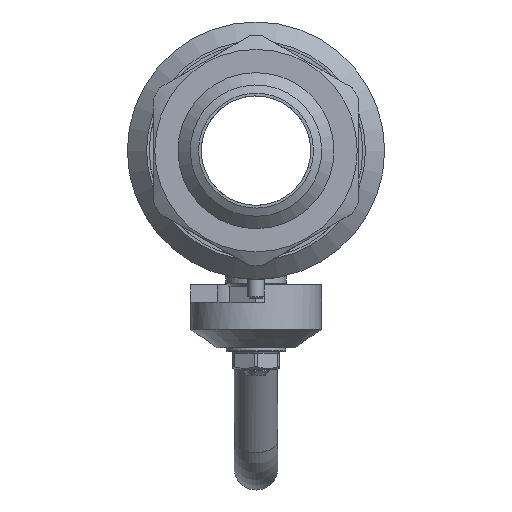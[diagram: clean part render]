
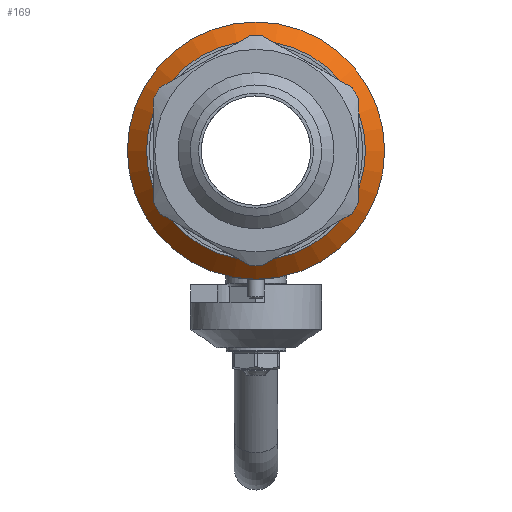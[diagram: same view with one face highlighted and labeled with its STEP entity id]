
A CAD part, left-side view. The second image highlights one B-rep face of the part: STEP entity #169.
In plain terms, the highlighted conical face has half-angle 45 degrees and reference radius 43.5 mm.
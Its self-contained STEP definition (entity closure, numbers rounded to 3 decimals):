
#169=ADVANCED_FACE('',(#1450),#1452,.T.);
#1450=FACE_OUTER_BOUND('',#1451,.T.);
#1451=EDGE_LOOP('',(#2859,#2860,#2861,#2862));
#1452=CONICAL_SURFACE('',#1453,43.5,0.785);
#1453=AXIS2_PLACEMENT_3D('',#1454,#1455,#1456);
#1454=CARTESIAN_POINT('',(-41.5,0.,0.));
#1455=DIRECTION('',(1.,0.,0.));
#1456=DIRECTION('',(0.,1.,0.));
#2859=ORIENTED_EDGE('',*,*,#4205,.T.);
#2860=ORIENTED_EDGE('',*,*,#4201,.T.);
#2861=ORIENTED_EDGE('',*,*,#4205,.F.);
#2862=ORIENTED_EDGE('',*,*,#4206,.F.);
#4201=EDGE_CURVE('',#4754,#4754,#4756,.T.);
#4205=EDGE_CURVE('',#4762,#4754,#4763,.T.);
#4206=EDGE_CURVE('',#4762,#4762,#4764,.T.);
#4754=VERTEX_POINT('',#7342);
#4756=CIRCLE('',#7346,47.);
#4762=VERTEX_POINT('',#7363);
#4763=LINE('',#7364,#7365);
#4764=CIRCLE('',#7367,40.);
#7342=CARTESIAN_POINT('',(-38.,-47.,0.));
#7346=AXIS2_PLACEMENT_3D('',#7347,#7348,#7349);
#7347=CARTESIAN_POINT('',(-38.,0.,0.));
#7348=DIRECTION('',(-1.,0.,0.));
#7349=DIRECTION('',(0.,-1.,0.));
#7363=CARTESIAN_POINT('',(-45.,-40.,0.));
#7364=CARTESIAN_POINT('',(-45.,-40.,0.));
#7365=VECTOR('',#7366,1.);
#7366=DIRECTION('',(0.707,-0.707,0.));
#7367=AXIS2_PLACEMENT_3D('',#7368,#7369,#7370);
#7368=CARTESIAN_POINT('',(-45.,0.,0.));
#7369=DIRECTION('',(-1.,0.,0.));
#7370=DIRECTION('',(0.,-1.,0.));
